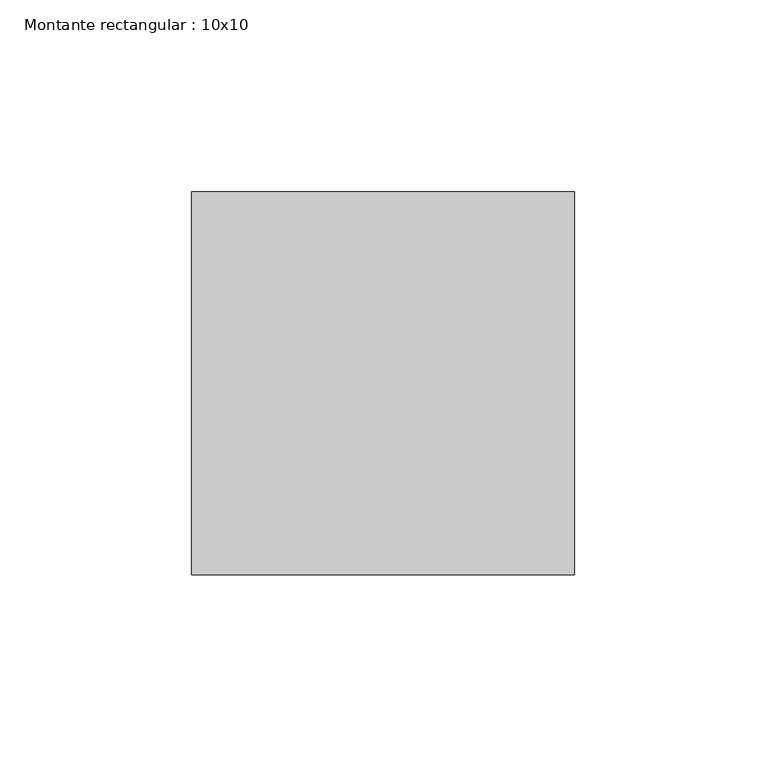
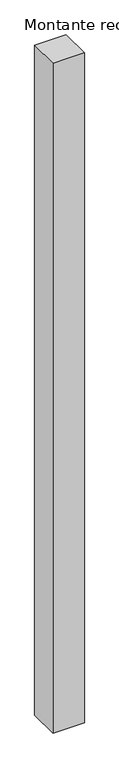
"""IFC4 building model written with IfcOpenShell, lengths in millimetres: member geometry, Montante rectangular : 10x10."""

from ifc_helpers import new_model, si_unit, frame, origin, place, context, project, spatial, polyline, outline, extrude, source, transform, mapped, element, save


def montante_rectangular_10x10_5bd723db(model_context):
    return source(origin(), model_context, "Body", "SweptSolid", [
        extrude(outline(polyline([(100.0, 50.0), (100.0, -50.0), (0.0, -50.0), (0.0, 50.0), (100.0, 50.0)])), frame((0.0, 0.0, -2250.0), z_axis=(0.0, 0.0, 1.0), x_axis=(1.0, 0.0, 0.0)), (0.0, 0.0, 1.0), 2250.0),
    ])


if __name__ == "__main__":
    model = new_model("IFC4")
    model_context = context("Model", 3, world=origin())
    ifc_project = project(units=[si_unit("LENGTHUNIT", "METRE", prefix="MILLI")], contexts=[model_context])
    site = spatial("IfcSite", under=ifc_project)
    building = spatial("IfcBuilding", under=site)
    placement = place(None, origin())
    montante_rectangular_10x10_shape = montante_rectangular_10x10_5bd723db(model_context)
    element("IfcMember", 1, ObjectType="Montante rectangular : 10x10", at=placement, inside=building, context=model_context, shape_type="MappedRepresentation", body=[
        mapped(montante_rectangular_10x10_shape, transform((0.0, 0.0, 0.0), x_axis=(1.0, 0.0, 0.0), y_axis=(0.0, 1.0, 0.0), z_axis=(0.0, 0.0, 1.0))),
    ])
    save(model, "model.ifc")
